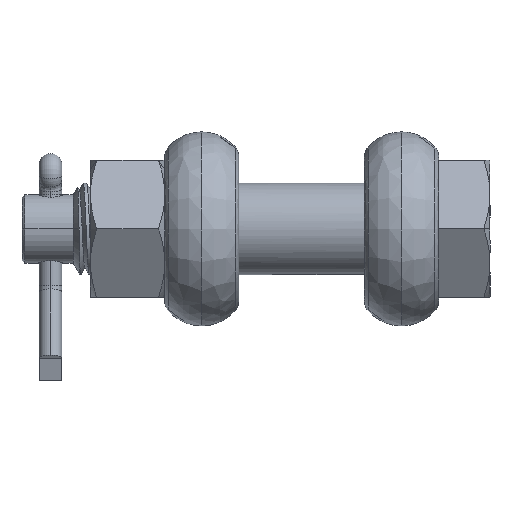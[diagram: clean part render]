
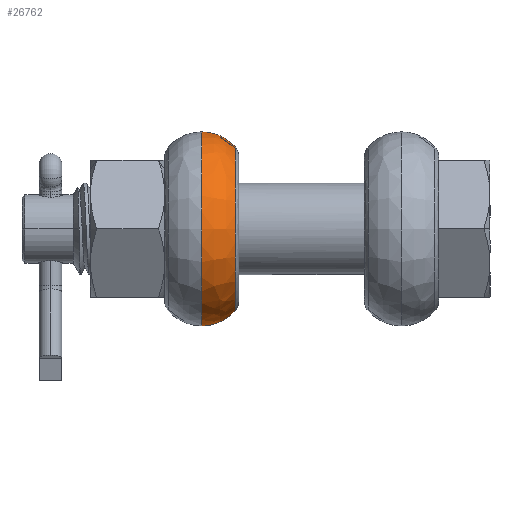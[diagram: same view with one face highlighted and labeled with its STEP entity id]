
A CAD part, front view. The second image highlights one B-rep face of the part: STEP entity #26762.
In plain terms, the highlighted free-form (B-spline) face has degree [3, 3] with [4, 4] control points.
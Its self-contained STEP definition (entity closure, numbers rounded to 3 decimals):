
#3317 = DIRECTION ( 'NONE',  ( 0., 0., -1. ) ) ;
#3318 = DIRECTION ( 'NONE',  ( 1., 0., 0. ) ) ;
#3319 = AXIS2_PLACEMENT_3D ( 'NONE', #3322, #3318, #3317 ) ;
#3320 = CIRCLE ( 'NONE', #3319, 14.359 ) ;
#3322 = CARTESIAN_POINT ( 'NONE',  ( -11.65, 0., 0. ) ) ;
#13876 = CARTESIAN_POINT ( 'NONE',  ( -11.65, 0., -14.359 ) ) ;
#13882 = CARTESIAN_POINT ( 'NONE',  ( -11.65, 0., 14.359 ) ) ;
#21276 = FACE_OUTER_BOUND ( 'NONE', #26763, .T. ) ;
#21291 = CARTESIAN_POINT ( 'NONE',  ( -17.5, 0., 17. ) ) ;
#21292 = CARTESIAN_POINT ( 'NONE',  ( -17.5, -34., 17. ) ) ;
#21293 = CARTESIAN_POINT ( 'NONE',  ( -17.5, -34., -17. ) ) ;
#21294 = CARTESIAN_POINT ( 'NONE',  ( -17.5, 0., -17. ) ) ;
#21295 = CARTESIAN_POINT ( 'NONE',  ( -15.226, 0., 17. ) ) ;
#21296 = CARTESIAN_POINT ( 'NONE',  ( -15.226, -34., 17. ) ) ;
#21297 = CARTESIAN_POINT ( 'NONE',  ( -15.226, -34., -17. ) ) ;
#21298 = CARTESIAN_POINT ( 'NONE',  ( -15.226, 0., -17. ) ) ;
#21299 = CARTESIAN_POINT ( 'NONE',  ( -13.154, 0., 16.065 ) ) ;
#21300 = CARTESIAN_POINT ( 'NONE',  ( -13.154, -32.129, 16.065 ) ) ;
#21301 = CARTESIAN_POINT ( 'NONE',  ( -13.154, -32.129, -16.065 ) ) ;
#21302 = CARTESIAN_POINT ( 'NONE',  ( -13.154, 0., -16.065 ) ) ;
#21303 = CARTESIAN_POINT ( 'NONE',  ( -11.65, 0., 14.359 ) ) ;
#21304 = CARTESIAN_POINT ( 'NONE',  ( -11.65, -28.718, 14.359 ) ) ;
#21305 = CARTESIAN_POINT ( 'NONE',  ( -11.65, -28.718, -14.359 ) ) ;
#21306 = CARTESIAN_POINT ( 'NONE',  ( -11.65, 0., -14.359 ) ) ;
#21307 = CARTESIAN_POINT ( 'NONE',  ( -17.5, 0., 17. ) ) ;
#21308 = DIRECTION ( 'NONE',  ( 0., 0., -1. ) ) ;
#21309 = DIRECTION ( 'NONE',  ( 1., 0., 0. ) ) ;
#21310 = AXIS2_PLACEMENT_3D ( 'NONE', #21313, #21309, #21308 ) ;
#21311 = CIRCLE ( 'NONE', #21310, 17. ) ;
#21312 =( BOUNDED_SURFACE ( )  B_SPLINE_SURFACE ( 3, 3, ( 
 ( #21306, #21305, #21304, #21303 ),
 ( #21302, #21301, #21300, #21299 ),
 ( #21298, #21297, #21296, #21295 ),
 ( #21294, #21293, #21292, #21291 ) ),
 .UNSPECIFIED., .F., .F., .F. ) 
 B_SPLINE_SURFACE_WITH_KNOTS ( ( 4, 4 ),
 ( 4, 4 ),
 ( 0., 1. ),
 ( 0., 1. ),
 .UNSPECIFIED. ) 
 GEOMETRIC_REPRESENTATION_ITEM ( )  RATIONAL_B_SPLINE_SURFACE ( (
 ( 1., 0.333, 0.333, 1.),
 ( 0.941, 0.314, 0.314, 0.941),
 ( 0.941, 0.314, 0.314, 0.941),
 ( 1., 0.333, 0.333, 1.) ) ) 
 REPRESENTATION_ITEM ( '' )  SURFACE ( )  );
#21313 = CARTESIAN_POINT ( 'NONE',  ( -17.5, 0., 0. ) ) ;
#21331 = DIRECTION ( 'NONE',  ( 0., 0., -1. ) ) ;
#21332 = DIRECTION ( 'NONE',  ( 0., -1., 0. ) ) ;
#21333 = AXIS2_PLACEMENT_3D ( 'NONE', #21340, #21332, #21331 ) ;
#21334 = CIRCLE ( 'NONE', #21333, 7.8 ) ;
#21335 = DIRECTION ( 'NONE',  ( 0., 0., -1. ) ) ;
#21336 = DIRECTION ( 'NONE',  ( 0., -1., 0. ) ) ;
#21337 = CARTESIAN_POINT ( 'NONE',  ( -17.5, 0., -9.2 ) ) ;
#21338 = AXIS2_PLACEMENT_3D ( 'NONE', #21337, #21336, #21335 ) ;
#21339 = CIRCLE ( 'NONE', #21338, 7.8 ) ;
#21340 = CARTESIAN_POINT ( 'NONE',  ( -17.5, 0., 9.2 ) ) ;
#21341 = CARTESIAN_POINT ( 'NONE',  ( -17.5, 0., -17. ) ) ;
#26342 = VERTEX_POINT ( 'NONE', #13882 ) ;
#26343 = VERTEX_POINT ( 'NONE', #13876 ) ;
#26762 = ADVANCED_FACE ( 'NONE', ( #21276 ), #21312, .F. ) ;
#26763 = EDGE_LOOP ( 'NONE', ( #26764, #26768, #26770, #26771 ) ) ;
#26764 = ORIENTED_EDGE ( 'NONE', *, *, #26765, .T. ) ;
#26765 = EDGE_CURVE ( 'NONE', #26766, #26767, #21311, .T. ) ;
#26766 = VERTEX_POINT ( 'NONE', #21307 ) ;
#26767 = VERTEX_POINT ( 'NONE', #21341 ) ;
#26768 = ORIENTED_EDGE ( 'NONE', *, *, #26769, .T. ) ;
#26769 = EDGE_CURVE ( 'NONE', #26767, #26343, #21339, .T. ) ;
#26770 = ORIENTED_EDGE ( 'NONE', *, *, #26985, .F. ) ;
#26771 = ORIENTED_EDGE ( 'NONE', *, *, #26772, .T. ) ;
#26772 = EDGE_CURVE ( 'NONE', #26342, #26766, #21334, .T. ) ;
#26985 = EDGE_CURVE ( 'NONE', #26342, #26343, #3320, .T. ) ;
